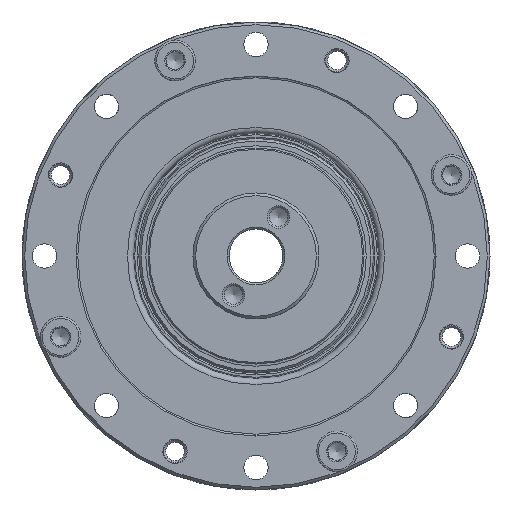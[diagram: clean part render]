
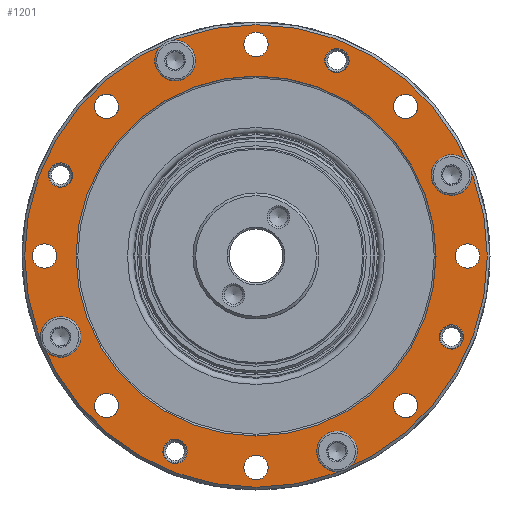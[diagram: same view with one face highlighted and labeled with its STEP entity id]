
A CAD part, left-side view. The second image highlights one B-rep face of the part: STEP entity #1201.
In plain terms, the highlighted planar face has unit normal (-1, 0, 0).
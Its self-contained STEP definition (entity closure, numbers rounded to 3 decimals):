
#1201=ADVANCED_FACE('',(#1859,#1860,#1861,#1862,#1863,#1864,#1865,#1866,
#1867,#1868,#1869,#1870,#1871,#1872,#1873,#1874,#1875,#1876),#1315,.T.);
#1315=PLANE('',#5735);
#1859=FACE_BOUND('',#2541,.T.);
#1860=FACE_BOUND('',#2542,.T.);
#1861=FACE_BOUND('',#2543,.T.);
#1862=FACE_BOUND('',#2544,.T.);
#1863=FACE_BOUND('',#2545,.T.);
#1864=FACE_BOUND('',#2546,.T.);
#1865=FACE_BOUND('',#2547,.T.);
#1866=FACE_BOUND('',#2548,.T.);
#1867=FACE_BOUND('',#2549,.T.);
#1868=FACE_BOUND('',#2550,.T.);
#1869=FACE_BOUND('',#2551,.T.);
#1870=FACE_BOUND('',#2552,.T.);
#1871=FACE_BOUND('',#2553,.T.);
#1872=FACE_BOUND('',#2554,.T.);
#1873=FACE_BOUND('',#2555,.T.);
#1874=FACE_BOUND('',#2556,.T.);
#1875=FACE_BOUND('',#2557,.T.);
#1876=FACE_BOUND('',#2558,.T.);
#2541=EDGE_LOOP('',(#3623));
#2542=EDGE_LOOP('',(#3624));
#2543=EDGE_LOOP('',(#3625));
#2544=EDGE_LOOP('',(#3626));
#2545=EDGE_LOOP('',(#3627));
#2546=EDGE_LOOP('',(#3628));
#2547=EDGE_LOOP('',(#3629));
#2548=EDGE_LOOP('',(#3630));
#2549=EDGE_LOOP('',(#3631));
#2550=EDGE_LOOP('',(#3632));
#2551=EDGE_LOOP('',(#3633));
#2552=EDGE_LOOP('',(#3634));
#2553=EDGE_LOOP('',(#3635));
#2554=EDGE_LOOP('',(#3636));
#2555=EDGE_LOOP('',(#3637));
#2556=EDGE_LOOP('',(#3638));
#2557=EDGE_LOOP('',(#3639));
#2558=EDGE_LOOP('',(#3640));
#3623=ORIENTED_EDGE('',*,*,#4667,.F.);
#3624=ORIENTED_EDGE('',*,*,#4668,.F.);
#3625=ORIENTED_EDGE('',*,*,#4669,.F.);
#3626=ORIENTED_EDGE('',*,*,#4670,.F.);
#3627=ORIENTED_EDGE('',*,*,#4671,.F.);
#3628=ORIENTED_EDGE('',*,*,#4672,.F.);
#3629=ORIENTED_EDGE('',*,*,#4673,.F.);
#3630=ORIENTED_EDGE('',*,*,#4674,.F.);
#3631=ORIENTED_EDGE('',*,*,#4675,.F.);
#3632=ORIENTED_EDGE('',*,*,#4676,.F.);
#3633=ORIENTED_EDGE('',*,*,#4677,.F.);
#3634=ORIENTED_EDGE('',*,*,#4678,.F.);
#3635=ORIENTED_EDGE('',*,*,#4679,.F.);
#3636=ORIENTED_EDGE('',*,*,#4680,.F.);
#3637=ORIENTED_EDGE('',*,*,#4681,.F.);
#3638=ORIENTED_EDGE('',*,*,#4682,.F.);
#3639=ORIENTED_EDGE('',*,*,#4683,.T.);
#3640=ORIENTED_EDGE('',*,*,#4666,.F.);
#4125=VERTEX_POINT('',#9032);
#4126=VERTEX_POINT('',#9035);
#4127=VERTEX_POINT('',#9037);
#4128=VERTEX_POINT('',#9039);
#4129=VERTEX_POINT('',#9041);
#4130=VERTEX_POINT('',#9043);
#4131=VERTEX_POINT('',#9045);
#4132=VERTEX_POINT('',#9047);
#4133=VERTEX_POINT('',#9049);
#4134=VERTEX_POINT('',#9051);
#4135=VERTEX_POINT('',#9053);
#4136=VERTEX_POINT('',#9055);
#4137=VERTEX_POINT('',#9057);
#4138=VERTEX_POINT('',#9059);
#4139=VERTEX_POINT('',#9061);
#4140=VERTEX_POINT('',#9063);
#4141=VERTEX_POINT('',#9065);
#4142=VERTEX_POINT('',#9067);
#4666=EDGE_CURVE('',#4125,#4125,#5031,.T.);
#4667=EDGE_CURVE('',#4126,#4126,#5032,.T.);
#4668=EDGE_CURVE('',#4127,#4127,#5033,.T.);
#4669=EDGE_CURVE('',#4128,#4128,#5034,.T.);
#4670=EDGE_CURVE('',#4129,#4129,#5035,.T.);
#4671=EDGE_CURVE('',#4130,#4130,#5036,.T.);
#4672=EDGE_CURVE('',#4131,#4131,#5037,.T.);
#4673=EDGE_CURVE('',#4132,#4132,#5038,.T.);
#4674=EDGE_CURVE('',#4133,#4133,#5039,.T.);
#4675=EDGE_CURVE('',#4134,#4134,#5040,.T.);
#4676=EDGE_CURVE('',#4135,#4135,#5041,.T.);
#4677=EDGE_CURVE('',#4136,#4136,#5042,.T.);
#4678=EDGE_CURVE('',#4137,#4137,#5043,.T.);
#4679=EDGE_CURVE('',#4138,#4138,#5044,.T.);
#4680=EDGE_CURVE('',#4139,#4139,#5045,.T.);
#4681=EDGE_CURVE('',#4140,#4140,#5046,.T.);
#4682=EDGE_CURVE('',#4141,#4141,#5047,.T.);
#4683=EDGE_CURVE('',#4142,#4142,#5048,.T.);
#5031=CIRCLE('',#5716,20.);
#5032=CIRCLE('',#5718,1.35);
#5033=CIRCLE('',#5719,1.35);
#5034=CIRCLE('',#5720,1.35);
#5035=CIRCLE('',#5721,1.35);
#5036=CIRCLE('',#5722,1.35);
#5037=CIRCLE('',#5723,1.35);
#5038=CIRCLE('',#5724,1.35);
#5039=CIRCLE('',#5725,1.35);
#5040=CIRCLE('',#5726,1.35);
#5041=CIRCLE('',#5727,1.35);
#5042=CIRCLE('',#5728,1.35);
#5043=CIRCLE('',#5729,1.35);
#5044=CIRCLE('',#5730,1.35);
#5045=CIRCLE('',#5731,1.35);
#5046=CIRCLE('',#5732,1.35);
#5047=CIRCLE('',#5733,1.35);
#5048=CIRCLE('',#5734,25.7);
#5716=AXIS2_PLACEMENT_3D('',#9031,#7215,#7216);
#5718=AXIS2_PLACEMENT_3D('',#9034,#7219,#7220);
#5719=AXIS2_PLACEMENT_3D('',#9036,#7221,#7222);
#5720=AXIS2_PLACEMENT_3D('',#9038,#7223,#7224);
#5721=AXIS2_PLACEMENT_3D('',#9040,#7225,#7226);
#5722=AXIS2_PLACEMENT_3D('',#9042,#7227,#7228);
#5723=AXIS2_PLACEMENT_3D('',#9044,#7229,#7230);
#5724=AXIS2_PLACEMENT_3D('',#9046,#7231,#7232);
#5725=AXIS2_PLACEMENT_3D('',#9048,#7233,#7234);
#5726=AXIS2_PLACEMENT_3D('',#9050,#7235,#7236);
#5727=AXIS2_PLACEMENT_3D('',#9052,#7237,#7238);
#5728=AXIS2_PLACEMENT_3D('',#9054,#7239,#7240);
#5729=AXIS2_PLACEMENT_3D('',#9056,#7241,#7242);
#5730=AXIS2_PLACEMENT_3D('',#9058,#7243,#7244);
#5731=AXIS2_PLACEMENT_3D('',#9060,#7245,#7246);
#5732=AXIS2_PLACEMENT_3D('',#9062,#7247,#7248);
#5733=AXIS2_PLACEMENT_3D('',#9064,#7249,#7250);
#5734=AXIS2_PLACEMENT_3D('',#9066,#7251,#7252);
#5735=AXIS2_PLACEMENT_3D('',#9068,#7253,#7254);
#7215=DIRECTION('',(-1.,0.,0.));
#7216=DIRECTION('',(0.,0.,1.));
#7219=DIRECTION('',(-1.,0.,0.));
#7220=DIRECTION('',(0.,0.,1.));
#7221=DIRECTION('',(-1.,0.,0.));
#7222=DIRECTION('',(0.,0.,1.));
#7223=DIRECTION('',(-1.,0.,0.));
#7224=DIRECTION('',(0.,0.,1.));
#7225=DIRECTION('',(-1.,0.,0.));
#7226=DIRECTION('',(0.,0.,1.));
#7227=DIRECTION('',(-1.,0.,0.));
#7228=DIRECTION('',(0.,0.,1.));
#7229=DIRECTION('',(-1.,0.,0.));
#7230=DIRECTION('',(0.,0.,1.));
#7231=DIRECTION('',(-1.,0.,0.));
#7232=DIRECTION('',(0.,0.,1.));
#7233=DIRECTION('',(-1.,0.,0.));
#7234=DIRECTION('',(0.,0.,1.));
#7235=DIRECTION('',(-1.,0.,0.));
#7236=DIRECTION('',(0.,0.,1.));
#7237=DIRECTION('',(-1.,0.,0.));
#7238=DIRECTION('',(0.,0.,1.));
#7239=DIRECTION('',(-1.,0.,0.));
#7240=DIRECTION('',(0.,0.,1.));
#7241=DIRECTION('',(-1.,0.,0.));
#7242=DIRECTION('',(0.,0.,1.));
#7243=DIRECTION('',(-1.,0.,0.));
#7244=DIRECTION('',(0.,0.,1.));
#7245=DIRECTION('',(-1.,0.,0.));
#7246=DIRECTION('',(0.,0.,1.));
#7247=DIRECTION('',(-1.,0.,0.));
#7248=DIRECTION('',(0.,0.,1.));
#7249=DIRECTION('',(-1.,0.,0.));
#7250=DIRECTION('',(0.,0.,1.));
#7251=DIRECTION('',(-1.,0.,0.));
#7252=DIRECTION('',(0.,0.,1.));
#7253=DIRECTION('',(-1.,0.,0.));
#7254=DIRECTION('',(0.,0.,1.));
#9031=CARTESIAN_POINT('',(0.,0.,0.));
#9032=CARTESIAN_POINT('',(0.,0.,20.));
#9034=CARTESIAN_POINT('',(0.,-21.711,8.993));
#9035=CARTESIAN_POINT('',(0.,-21.711,10.343));
#9036=CARTESIAN_POINT('',(0.,-21.711,-8.993));
#9037=CARTESIAN_POINT('',(0.,-21.711,-7.643));
#9038=CARTESIAN_POINT('',(0.,-23.5,0.));
#9039=CARTESIAN_POINT('',(0.,-23.5,1.35));
#9040=CARTESIAN_POINT('',(0.,-16.617,-16.617));
#9041=CARTESIAN_POINT('',(0.,-16.617,-15.267));
#9042=CARTESIAN_POINT('',(0.,-16.617,16.617));
#9043=CARTESIAN_POINT('',(0.,-16.617,17.967));
#9044=CARTESIAN_POINT('',(0.,-8.993,-21.711));
#9045=CARTESIAN_POINT('',(0.,-8.993,-20.361));
#9046=CARTESIAN_POINT('',(0.,-8.993,21.711));
#9047=CARTESIAN_POINT('',(0.,-8.993,23.061));
#9048=CARTESIAN_POINT('',(0.,0.,-23.5));
#9049=CARTESIAN_POINT('',(0.,0.,-22.15));
#9050=CARTESIAN_POINT('',(0.,0.,23.5));
#9051=CARTESIAN_POINT('',(0.,0.,24.85));
#9052=CARTESIAN_POINT('',(0.,8.993,-21.711));
#9053=CARTESIAN_POINT('',(0.,8.993,-20.361));
#9054=CARTESIAN_POINT('',(0.,8.993,21.711));
#9055=CARTESIAN_POINT('',(0.,8.993,23.061));
#9056=CARTESIAN_POINT('',(0.,16.617,-16.617));
#9057=CARTESIAN_POINT('',(0.,16.617,-15.267));
#9058=CARTESIAN_POINT('',(0.,16.617,16.617));
#9059=CARTESIAN_POINT('',(0.,16.617,17.967));
#9060=CARTESIAN_POINT('',(0.,21.711,-8.993));
#9061=CARTESIAN_POINT('',(0.,21.711,-7.643));
#9062=CARTESIAN_POINT('',(0.,21.711,8.993));
#9063=CARTESIAN_POINT('',(0.,21.711,10.343));
#9064=CARTESIAN_POINT('',(0.,23.5,0.));
#9065=CARTESIAN_POINT('',(0.,23.5,1.35));
#9066=CARTESIAN_POINT('',(0.,0.,0.));
#9067=CARTESIAN_POINT('',(0.,0.,25.7));
#9068=CARTESIAN_POINT('',(0.,20.,0.));
